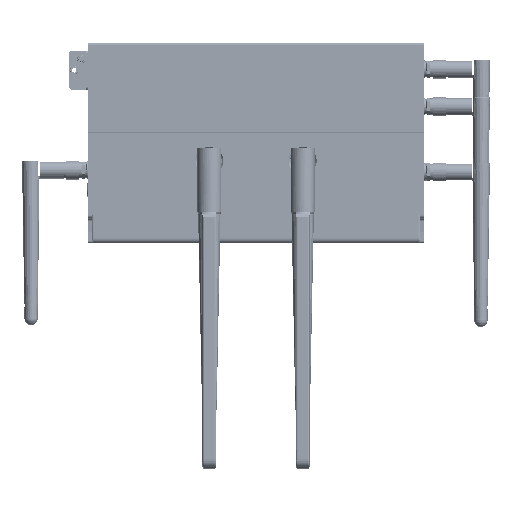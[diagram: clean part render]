
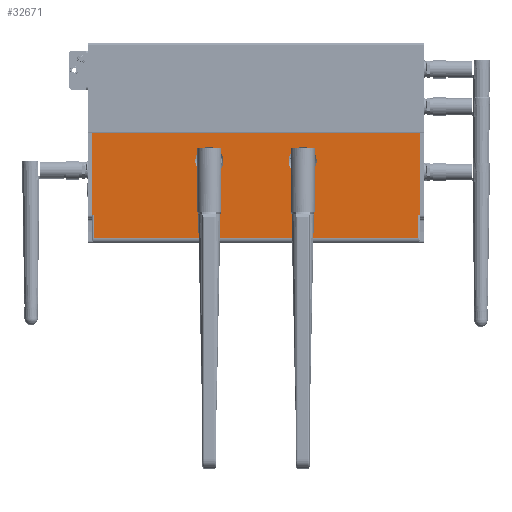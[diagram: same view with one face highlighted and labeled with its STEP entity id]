
A CAD part, left-side view. The second image highlights one B-rep face of the part: STEP entity #32671.
In plain terms, the highlighted planar face has unit normal (-1, 0, 0).
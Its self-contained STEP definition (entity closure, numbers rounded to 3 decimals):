
#978=DIRECTION('',(0.,0.,1.));
#979=VECTOR('',#978,43.8);
#980=CARTESIAN_POINT('',(-87.5,-88.,-4.));
#981=LINE('',#980,#979);
#5300=DIRECTION('',(0.,0.,1.));
#5301=VECTOR('',#5300,43.8);
#5302=CARTESIAN_POINT('',(-87.5,88.,-4.));
#5303=LINE('',#5302,#5301);
#13623=DIRECTION('',(0.,1.,0.));
#13624=VECTOR('',#13623,176.);
#13625=CARTESIAN_POINT('',(-87.5,-88.,39.8));
#13626=LINE('',#13625,#13624);
#13630=DIRECTION('',(0.,1.,0.));
#13631=VECTOR('',#13630,1.);
#13632=CARTESIAN_POINT('',(-87.5,-88.,-4.));
#13633=LINE('',#13632,#13631);
#13637=DIRECTION('',(0.,0.,-1.));
#13638=VECTOR('',#13637,12.5);
#13639=CARTESIAN_POINT('',(-87.5,-87.,-4.));
#13640=LINE('',#13639,#13638);
#13644=DIRECTION('',(0.,1.,0.));
#13645=VECTOR('',#13644,174.);
#13646=CARTESIAN_POINT('',(-87.5,-87.,-16.5));
#13647=LINE('',#13646,#13645);
#13651=DIRECTION('',(0.,0.,-1.));
#13652=VECTOR('',#13651,12.5);
#13653=CARTESIAN_POINT('',(-87.5,87.,-4.));
#13654=LINE('',#13653,#13652);
#13658=DIRECTION('',(0.,1.,0.));
#13659=VECTOR('',#13658,1.);
#13660=CARTESIAN_POINT('',(-87.5,87.,-4.));
#13661=LINE('',#13660,#13659);
#13665=CARTESIAN_POINT('',(-87.5,25.,25.));
#13666=DIRECTION('',(1.,0.,0.));
#13667=DIRECTION('',(0.,1.,0.));
#13668=AXIS2_PLACEMENT_3D('',#13665,#13666,#13667);
#13673=CARTESIAN_POINT('',(-87.5,25.,25.));
#13674=DIRECTION('',(1.,0.,0.));
#13675=DIRECTION('',(0.,-1.,0.));
#13676=AXIS2_PLACEMENT_3D('',#13673,#13674,#13675);
#13681=CARTESIAN_POINT('',(-87.5,-25.,25.));
#13682=DIRECTION('',(1.,0.,0.));
#13683=DIRECTION('',(0.,1.,0.));
#13684=AXIS2_PLACEMENT_3D('',#13681,#13682,#13683);
#13689=CARTESIAN_POINT('',(-87.5,-25.,25.));
#13690=DIRECTION('',(1.,0.,0.));
#13691=DIRECTION('',(0.,-1.,0.));
#13692=AXIS2_PLACEMENT_3D('',#13689,#13690,#13691);
#13713=CARTESIAN_POINT('',(-87.5,87.,-16.5));
#13733=CARTESIAN_POINT('',(-87.5,-87.,-16.5));
#22036=CARTESIAN_POINT('',(-87.5,-88.,39.8));
#22038=VERTEX_POINT('',#22036);
#22348=CARTESIAN_POINT('',(-87.5,88.,39.8));
#22350=VERTEX_POINT('',#22348);
#23058=CARTESIAN_POINT('',(-87.5,-88.,-4.));
#23060=VERTEX_POINT('',#23058);
#23064=CARTESIAN_POINT('',(-87.5,88.,-4.));
#23066=VERTEX_POINT('',#23064);
#23070=VERTEX_POINT('',#13713);
#23073=VERTEX_POINT('',#13733);
#23074=CARTESIAN_POINT('',(-87.5,-87.,-4.));
#23075=VERTEX_POINT('',#23074);
#23076=CARTESIAN_POINT('',(-87.5,87.,-4.));
#23077=VERTEX_POINT('',#23076);
#24458=CARTESIAN_POINT('',(-87.5,32.5,25.));
#24459=CARTESIAN_POINT('',(-87.5,17.5,25.));
#24460=VERTEX_POINT('',#24458);
#24461=VERTEX_POINT('',#24459);
#24466=CARTESIAN_POINT('',(-87.5,-17.5,25.));
#24467=CARTESIAN_POINT('',(-87.5,-32.5,25.));
#24468=VERTEX_POINT('',#24466);
#24469=VERTEX_POINT('',#24467);
#32639=CARTESIAN_POINT('',(-87.5,-88.,-16.5));
#32640=DIRECTION('',(-1.,0.,0.));
#32641=DIRECTION('',(0.,0.,1.));
#32642=AXIS2_PLACEMENT_3D('',#32639,#32640,#32641);
#32643=PLANE('',#32642);
#32645=ORIENTED_EDGE('',*,*,#32644,.T.);
#32647=ORIENTED_EDGE('',*,*,#32646,.T.);
#32649=ORIENTED_EDGE('',*,*,#32648,.T.);
#32651=ORIENTED_EDGE('',*,*,#32650,.F.);
#32653=ORIENTED_EDGE('',*,*,#32652,.T.);
#32654=ORIENTED_EDGE('',*,*,#26159,.T.);
#32655=ORIENTED_EDGE('',*,*,#32632,.F.);
#32656=ORIENTED_EDGE('',*,*,#24811,.F.);
#32657=EDGE_LOOP('',(#32645,#32647,#32649,#32651,#32653,#32654,#32655,#32656));
#32658=FACE_OUTER_BOUND('',#32657,.F.);
#32660=ORIENTED_EDGE('',*,*,#32659,.F.);
#32662=ORIENTED_EDGE('',*,*,#32661,.F.);
#32663=EDGE_LOOP('',(#32660,#32662));
#32664=FACE_BOUND('',#32663,.F.);
#32666=ORIENTED_EDGE('',*,*,#32665,.F.);
#32668=ORIENTED_EDGE('',*,*,#32667,.F.);
#32669=EDGE_LOOP('',(#32666,#32668));
#32670=FACE_BOUND('',#32669,.F.);
#13669=CIRCLE('',#13668,7.5);
#13677=CIRCLE('',#13676,7.5);
#13685=CIRCLE('',#13684,7.5);
#13693=CIRCLE('',#13692,7.5);
#24811=EDGE_CURVE('',#23060,#22038,#981,.T.);
#26159=EDGE_CURVE('',#23066,#22350,#5303,.T.);
#32632=EDGE_CURVE('',#22038,#22350,#13626,.T.);
#32644=EDGE_CURVE('',#23060,#23075,#13633,.T.);
#32646=EDGE_CURVE('',#23075,#23073,#13640,.T.);
#32648=EDGE_CURVE('',#23073,#23070,#13647,.T.);
#32650=EDGE_CURVE('',#23077,#23070,#13654,.T.);
#32652=EDGE_CURVE('',#23077,#23066,#13661,.T.);
#32659=EDGE_CURVE('',#24460,#24461,#13669,.T.);
#32661=EDGE_CURVE('',#24461,#24460,#13677,.T.);
#32665=EDGE_CURVE('',#24468,#24469,#13685,.T.);
#32667=EDGE_CURVE('',#24469,#24468,#13693,.T.);
#32671=ADVANCED_FACE('',(#32658,#32664,#32670),#32643,.T.);
